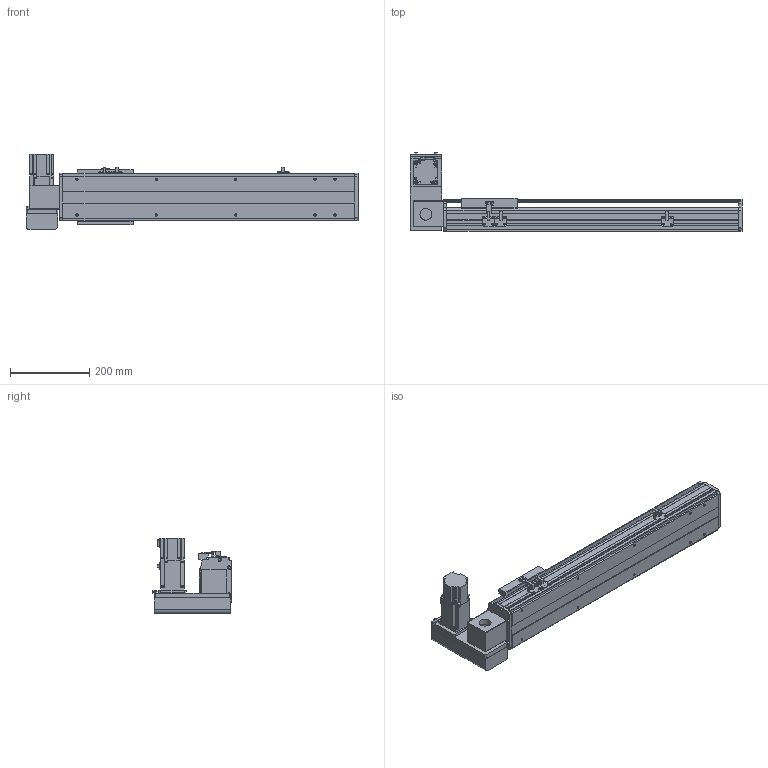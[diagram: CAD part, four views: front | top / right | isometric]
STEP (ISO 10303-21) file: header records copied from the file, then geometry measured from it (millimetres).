
FILE_DESCRIPTION(/* description */ ('STEP AP214'),/* implementation_level */ '2;1');
FILE_NAME(/* name */ 'PBS120-P40-S450-LU-T40-C1-N(0)',/* time_stamp */ '2022-06-06T02:30:22+02:00',/* author */ ('License CC BY-ND 4.0'),/* organization */ ('CADENAS'),/* preprocessor_version */ 'ST-DEVELOPER v18.102',/* originating_system */ 'PARTsolutions',/* authorisation */ ' ');
FILE_SCHEMA (('AUTOMOTIVE_DESIGN {1 0 10303 214 3 1 1}'));
Length unit declared in the file: millimetre
Products named in the file (7): PBS120-P40-S450-LU-T40-C1-N(0); PBS120_sensor; PBS120_plant; PBS120_sliser; T40-p1; PBS120T-LU_motors; PBS120-S450()_body
Assembly tree (8 placements, depth 2):
  PBS120-P40-S450-LU-T40-C1-N(0)
    PBS120_sensor  x3
    PBS120_plant
    PBS120_sliser
    T40-p1
    PBS120T-LU_motors
    PBS120-S450()_body
Bounding box: 836 x 198 x 189.7 mm (x, y, z)
Volume: 4170861.4 mm3; surface area: 768913.6 mm2
Topology: 8 solids, 8 shells, 810 faces, 2126 edges, 1369 vertices
Faces by surface type: plane 543, cylinder 223, cone 42, torus 2
Full cylindrical faces by diameter (mm): 2.459 x6, 3.242 x4, 4 x2, 4.134 x4, 4.5 x10, 4.917 x14, 5.5 x11, 6 x2, 6.6 x1, 7 x2, 8.5 x4, 9 x4, 12 x1, 14 x1, 30 x2, 40 x1, 50 x2
Entity records: 21234 total; most frequent: DIRECTION 3668, CARTESIAN_POINT 3623, ORIENTED_EDGE 3466, EDGE_CURVE 1733, LINE 1228, VECTOR 1228, AXIS2_PLACEMENT_3D 1220, VERTEX_POINT 1175
